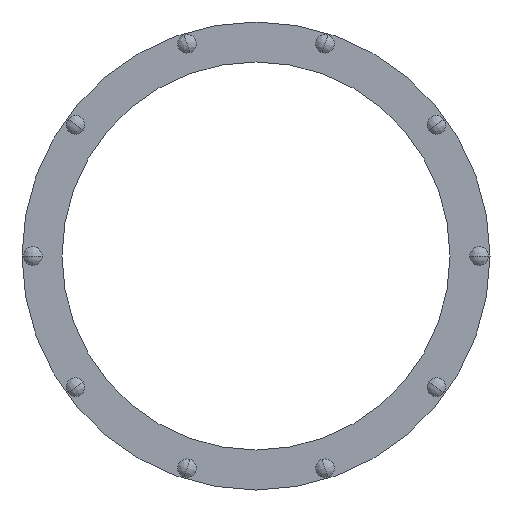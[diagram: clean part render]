
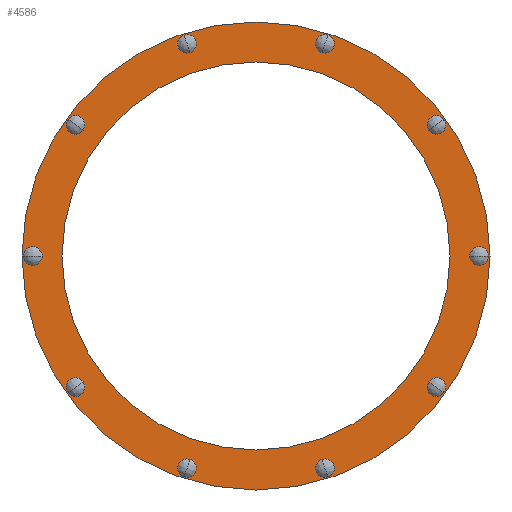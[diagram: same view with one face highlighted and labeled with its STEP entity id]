
A CAD part, front view. The second image highlights one B-rep face of the part: STEP entity #4586.
In plain terms, the highlighted planar face has unit normal (0, -1, 0).
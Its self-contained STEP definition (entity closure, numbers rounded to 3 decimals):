
#1613=CARTESIAN_POINT('',(0.,-151.,0.));
#1614=DIRECTION('',(0.,-1.,0.));
#1615=DIRECTION('',(-1.,0.,0.));
#1616=AXIS2_PLACEMENT_3D('',#1613,#1614,#1615);
#1622=CARTESIAN_POINT('',(0.,-151.,0.));
#1623=DIRECTION('',(0.,1.,0.));
#1624=DIRECTION('',(-1.,0.,0.));
#1625=AXIS2_PLACEMENT_3D('',#1622,#1623,#1624);
#1631=CARTESIAN_POINT('',(0.,-151.,0.));
#1632=DIRECTION('',(0.,-1.,0.));
#1633=DIRECTION('',(-1.,0.,0.));
#1634=AXIS2_PLACEMENT_3D('',#1631,#1632,#1633);
#1636=CARTESIAN_POINT('',(0.,-151.,0.));
#1637=DIRECTION('',(0.,1.,0.));
#1638=DIRECTION('',(-1.,0.,0.));
#1639=AXIS2_PLACEMENT_3D('',#1636,#1637,#1638);
#1641=CARTESIAN_POINT('',(-307.,-151.,0.));
#1642=DIRECTION('',(0.,1.,0.));
#1643=DIRECTION('',(-1.,0.,0.));
#1644=AXIS2_PLACEMENT_3D('',#1641,#1642,#1643);
#1646=CARTESIAN_POINT('',(-307.,-151.,0.));
#1647=DIRECTION('',(0.,1.,0.));
#1648=DIRECTION('',(1.,0.,0.));
#1649=AXIS2_PLACEMENT_3D('',#1646,#1647,#1648);
#1651=CARTESIAN_POINT('',(-248.368,-151.,-180.45));
#1652=DIRECTION('',(0.,1.,0.));
#1653=DIRECTION('',(-0.809,0.,-0.588));
#1654=AXIS2_PLACEMENT_3D('',#1651,#1652,#1653);
#1656=CARTESIAN_POINT('',(-248.368,-151.,-180.45));
#1657=DIRECTION('',(0.,1.,0.));
#1658=DIRECTION('',(0.809,0.,0.588));
#1659=AXIS2_PLACEMENT_3D('',#1656,#1657,#1658);
#1661=CARTESIAN_POINT('',(-94.868,-151.,-291.974));
#1662=DIRECTION('',(0.,1.,0.));
#1663=DIRECTION('',(-0.309,0.,-0.951));
#1664=AXIS2_PLACEMENT_3D('',#1661,#1662,#1663);
#1666=CARTESIAN_POINT('',(-94.868,-151.,-291.974));
#1667=DIRECTION('',(0.,1.,0.));
#1668=DIRECTION('',(0.309,0.,0.951));
#1669=AXIS2_PLACEMENT_3D('',#1666,#1667,#1668);
#1671=CARTESIAN_POINT('',(94.868,-151.,-291.974));
#1672=DIRECTION('',(0.,1.,0.));
#1673=DIRECTION('',(0.309,0.,-0.951));
#1674=AXIS2_PLACEMENT_3D('',#1671,#1672,#1673);
#1676=CARTESIAN_POINT('',(94.868,-151.,-291.974));
#1677=DIRECTION('',(0.,1.,0.));
#1678=DIRECTION('',(-0.309,0.,0.951));
#1679=AXIS2_PLACEMENT_3D('',#1676,#1677,#1678);
#1681=CARTESIAN_POINT('',(248.368,-151.,-180.45));
#1682=DIRECTION('',(0.,1.,0.));
#1683=DIRECTION('',(0.809,0.,-0.588));
#1684=AXIS2_PLACEMENT_3D('',#1681,#1682,#1683);
#1686=CARTESIAN_POINT('',(248.368,-151.,-180.45));
#1687=DIRECTION('',(0.,1.,0.));
#1688=DIRECTION('',(-0.809,0.,0.588));
#1689=AXIS2_PLACEMENT_3D('',#1686,#1687,#1688);
#1691=CARTESIAN_POINT('',(307.,-151.,0.));
#1692=DIRECTION('',(0.,1.,0.));
#1693=DIRECTION('',(1.,0.,0.));
#1694=AXIS2_PLACEMENT_3D('',#1691,#1692,#1693);
#1696=CARTESIAN_POINT('',(307.,-151.,0.));
#1697=DIRECTION('',(0.,1.,0.));
#1698=DIRECTION('',(-1.,0.,0.));
#1699=AXIS2_PLACEMENT_3D('',#1696,#1697,#1698);
#1701=CARTESIAN_POINT('',(248.368,-151.,180.45));
#1702=DIRECTION('',(0.,1.,0.));
#1703=DIRECTION('',(0.809,0.,0.588));
#1704=AXIS2_PLACEMENT_3D('',#1701,#1702,#1703);
#1706=CARTESIAN_POINT('',(248.368,-151.,180.45));
#1707=DIRECTION('',(0.,1.,0.));
#1708=DIRECTION('',(-0.809,0.,-0.588));
#1709=AXIS2_PLACEMENT_3D('',#1706,#1707,#1708);
#1711=CARTESIAN_POINT('',(94.868,-151.,291.974));
#1712=DIRECTION('',(0.,1.,0.));
#1713=DIRECTION('',(0.309,0.,0.951));
#1714=AXIS2_PLACEMENT_3D('',#1711,#1712,#1713);
#1716=CARTESIAN_POINT('',(94.868,-151.,291.974));
#1717=DIRECTION('',(0.,1.,0.));
#1718=DIRECTION('',(-0.309,0.,-0.951));
#1719=AXIS2_PLACEMENT_3D('',#1716,#1717,#1718);
#1721=CARTESIAN_POINT('',(-94.868,-151.,291.974));
#1722=DIRECTION('',(0.,1.,0.));
#1723=DIRECTION('',(-0.309,0.,0.951));
#1724=AXIS2_PLACEMENT_3D('',#1721,#1722,#1723);
#1726=CARTESIAN_POINT('',(-94.868,-151.,291.974));
#1727=DIRECTION('',(0.,1.,0.));
#1728=DIRECTION('',(0.309,0.,-0.951));
#1729=AXIS2_PLACEMENT_3D('',#1726,#1727,#1728);
#1731=CARTESIAN_POINT('',(-248.368,-151.,180.45));
#1732=DIRECTION('',(0.,1.,0.));
#1733=DIRECTION('',(-0.809,0.,0.588));
#1734=AXIS2_PLACEMENT_3D('',#1731,#1732,#1733);
#1736=CARTESIAN_POINT('',(-248.368,-151.,180.45));
#1737=DIRECTION('',(0.,1.,0.));
#1738=DIRECTION('',(0.809,0.,-0.588));
#1739=AXIS2_PLACEMENT_3D('',#1736,#1737,#1738);
#3239=CARTESIAN_POINT('',(-322.,-151.,0.));
#3241=VERTEX_POINT('',#3239);
#3242=CARTESIAN_POINT('',(-267.,-151.,0.));
#3244=VERTEX_POINT('',#3242);
#3257=CARTESIAN_POINT('',(322.,-151.,0.));
#3259=VERTEX_POINT('',#3257);
#3260=CARTESIAN_POINT('',(267.,-151.,0.));
#3262=VERTEX_POINT('',#3260);
#3330=CARTESIAN_POINT('',(-319.75,-151.,0.));
#3331=VERTEX_POINT('',#3330);
#3332=CARTESIAN_POINT('',(-294.25,-151.,0.));
#3333=VERTEX_POINT('',#3332);
#3372=CARTESIAN_POINT('',(-258.683,-151.,-187.944));
#3373=VERTEX_POINT('',#3372);
#3374=CARTESIAN_POINT('',(-238.053,-151.,-172.956));
#3375=VERTEX_POINT('',#3374);
#3414=CARTESIAN_POINT('',(-98.808,-151.,-304.1));
#3415=VERTEX_POINT('',#3414);
#3416=CARTESIAN_POINT('',(-90.928,-151.,-279.848));
#3417=VERTEX_POINT('',#3416);
#3456=CARTESIAN_POINT('',(98.808,-151.,-304.1));
#3457=VERTEX_POINT('',#3456);
#3458=CARTESIAN_POINT('',(90.928,-151.,-279.848));
#3459=VERTEX_POINT('',#3458);
#3498=CARTESIAN_POINT('',(258.683,-151.,-187.944));
#3499=VERTEX_POINT('',#3498);
#3500=CARTESIAN_POINT('',(238.053,-151.,-172.956));
#3501=VERTEX_POINT('',#3500);
#3540=CARTESIAN_POINT('',(319.75,-151.,0.));
#3541=VERTEX_POINT('',#3540);
#3542=CARTESIAN_POINT('',(294.25,-151.,0.));
#3543=VERTEX_POINT('',#3542);
#3602=CARTESIAN_POINT('',(258.683,-151.,187.944));
#3603=VERTEX_POINT('',#3602);
#3604=CARTESIAN_POINT('',(238.053,-151.,172.956));
#3605=VERTEX_POINT('',#3604);
#3644=CARTESIAN_POINT('',(98.808,-151.,304.1));
#3645=VERTEX_POINT('',#3644);
#3646=CARTESIAN_POINT('',(90.928,-151.,279.848));
#3647=VERTEX_POINT('',#3646);
#3686=CARTESIAN_POINT('',(-98.808,-151.,304.1));
#3687=VERTEX_POINT('',#3686);
#3688=CARTESIAN_POINT('',(-90.928,-151.,279.848));
#3689=VERTEX_POINT('',#3688);
#3728=CARTESIAN_POINT('',(-258.683,-151.,187.944));
#3729=VERTEX_POINT('',#3728);
#3730=CARTESIAN_POINT('',(-238.053,-151.,172.956));
#3731=VERTEX_POINT('',#3730);
#4511=CARTESIAN_POINT('',(0.,-151.,0.));
#4512=DIRECTION('',(0.,-1.,0.));
#4513=DIRECTION('',(-1.,0.,0.));
#4514=AXIS2_PLACEMENT_3D('',#4511,#4512,#4513);
#4515=PLANE('',#4514);
#4517=ORIENTED_EDGE('',*,*,#4516,.F.);
#4519=ORIENTED_EDGE('',*,*,#4518,.T.);
#4520=EDGE_LOOP('',(#4517,#4519));
#4521=FACE_OUTER_BOUND('',#4520,.F.);
#4522=ORIENTED_EDGE('',*,*,#4504,.F.);
#4523=ORIENTED_EDGE('',*,*,#4493,.T.);
#4524=EDGE_LOOP('',(#4522,#4523));
#4525=FACE_BOUND('',#4524,.F.);
#4527=ORIENTED_EDGE('',*,*,#4526,.F.);
#4529=ORIENTED_EDGE('',*,*,#4528,.F.);
#4530=EDGE_LOOP('',(#4527,#4529));
#4531=FACE_BOUND('',#4530,.F.);
#4533=ORIENTED_EDGE('',*,*,#4532,.F.);
#4535=ORIENTED_EDGE('',*,*,#4534,.F.);
#4536=EDGE_LOOP('',(#4533,#4535));
#4537=FACE_BOUND('',#4536,.F.);
#4539=ORIENTED_EDGE('',*,*,#4538,.F.);
#4541=ORIENTED_EDGE('',*,*,#4540,.F.);
#4542=EDGE_LOOP('',(#4539,#4541));
#4543=FACE_BOUND('',#4542,.F.);
#4545=ORIENTED_EDGE('',*,*,#4544,.F.);
#4547=ORIENTED_EDGE('',*,*,#4546,.F.);
#4548=EDGE_LOOP('',(#4545,#4547));
#4549=FACE_BOUND('',#4548,.F.);
#4551=ORIENTED_EDGE('',*,*,#4550,.F.);
#4553=ORIENTED_EDGE('',*,*,#4552,.F.);
#4554=EDGE_LOOP('',(#4551,#4553));
#4555=FACE_BOUND('',#4554,.F.);
#4557=ORIENTED_EDGE('',*,*,#4556,.F.);
#4559=ORIENTED_EDGE('',*,*,#4558,.F.);
#4560=EDGE_LOOP('',(#4557,#4559));
#4561=FACE_BOUND('',#4560,.F.);
#4563=ORIENTED_EDGE('',*,*,#4562,.F.);
#4565=ORIENTED_EDGE('',*,*,#4564,.F.);
#4566=EDGE_LOOP('',(#4563,#4565));
#4567=FACE_BOUND('',#4566,.F.);
#4569=ORIENTED_EDGE('',*,*,#4568,.F.);
#4571=ORIENTED_EDGE('',*,*,#4570,.F.);
#4572=EDGE_LOOP('',(#4569,#4571));
#4573=FACE_BOUND('',#4572,.F.);
#4575=ORIENTED_EDGE('',*,*,#4574,.F.);
#4577=ORIENTED_EDGE('',*,*,#4576,.F.);
#4578=EDGE_LOOP('',(#4575,#4577));
#4579=FACE_BOUND('',#4578,.F.);
#4581=ORIENTED_EDGE('',*,*,#4580,.F.);
#4583=ORIENTED_EDGE('',*,*,#4582,.F.);
#4584=EDGE_LOOP('',(#4581,#4583));
#4585=FACE_BOUND('',#4584,.F.);
#4586=ADVANCED_FACE('',(#4521,#4525,#4531,#4537,#4543,#4549,#4555,#4561,#4567,
#4573,#4579,#4585),#4515,.T.);
#1617=CIRCLE('',#1616,267.);
#1626=CIRCLE('',#1625,267.);
#1635=CIRCLE('',#1634,322.);
#1640=CIRCLE('',#1639,322.);
#1645=CIRCLE('',#1644,12.75);
#1650=CIRCLE('',#1649,12.75);
#1655=CIRCLE('',#1654,12.75);
#1660=CIRCLE('',#1659,12.75);
#1665=CIRCLE('',#1664,12.75);
#1670=CIRCLE('',#1669,12.75);
#1675=CIRCLE('',#1674,12.75);
#1680=CIRCLE('',#1679,12.75);
#1685=CIRCLE('',#1684,12.75);
#1690=CIRCLE('',#1689,12.75);
#1695=CIRCLE('',#1694,12.75);
#1700=CIRCLE('',#1699,12.75);
#1705=CIRCLE('',#1704,12.75);
#1710=CIRCLE('',#1709,12.75);
#1715=CIRCLE('',#1714,12.75);
#1720=CIRCLE('',#1719,12.75);
#1725=CIRCLE('',#1724,12.75);
#1730=CIRCLE('',#1729,12.75);
#1735=CIRCLE('',#1734,12.75);
#1740=CIRCLE('',#1739,12.75);
#4493=EDGE_CURVE('',#3244,#3262,#1617,.T.);
#4504=EDGE_CURVE('',#3244,#3262,#1626,.T.);
#4516=EDGE_CURVE('',#3241,#3259,#1635,.T.);
#4518=EDGE_CURVE('',#3241,#3259,#1640,.T.);
#4526=EDGE_CURVE('',#3331,#3333,#1645,.T.);
#4528=EDGE_CURVE('',#3333,#3331,#1650,.T.);
#4532=EDGE_CURVE('',#3373,#3375,#1655,.T.);
#4534=EDGE_CURVE('',#3375,#3373,#1660,.T.);
#4538=EDGE_CURVE('',#3415,#3417,#1665,.T.);
#4540=EDGE_CURVE('',#3417,#3415,#1670,.T.);
#4544=EDGE_CURVE('',#3457,#3459,#1675,.T.);
#4546=EDGE_CURVE('',#3459,#3457,#1680,.T.);
#4550=EDGE_CURVE('',#3499,#3501,#1685,.T.);
#4552=EDGE_CURVE('',#3501,#3499,#1690,.T.);
#4556=EDGE_CURVE('',#3541,#3543,#1695,.T.);
#4558=EDGE_CURVE('',#3543,#3541,#1700,.T.);
#4562=EDGE_CURVE('',#3603,#3605,#1705,.T.);
#4564=EDGE_CURVE('',#3605,#3603,#1710,.T.);
#4568=EDGE_CURVE('',#3645,#3647,#1715,.T.);
#4570=EDGE_CURVE('',#3647,#3645,#1720,.T.);
#4574=EDGE_CURVE('',#3687,#3689,#1725,.T.);
#4576=EDGE_CURVE('',#3689,#3687,#1730,.T.);
#4580=EDGE_CURVE('',#3729,#3731,#1735,.T.);
#4582=EDGE_CURVE('',#3731,#3729,#1740,.T.);
